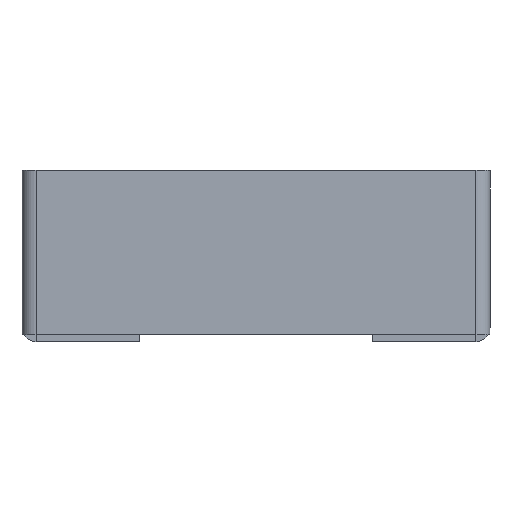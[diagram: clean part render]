
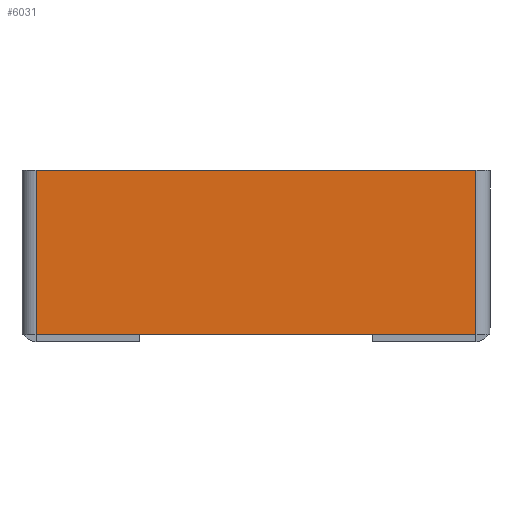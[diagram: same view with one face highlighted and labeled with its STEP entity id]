
A CAD part, front view. The second image highlights one B-rep face of the part: STEP entity #6031.
In plain terms, the highlighted planar face has unit normal (0, -1, 0).
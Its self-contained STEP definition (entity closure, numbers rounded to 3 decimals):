
#231 = CARTESIAN_POINT ( 'NONE',  ( -80., -2.5, 0. ) ) ;
#438 = LINE ( 'NONE', #8355, #7871 ) ;
#568 = ORIENTED_EDGE ( 'NONE', *, *, #774, .T. ) ;
#627 = FACE_OUTER_BOUND ( 'NONE', #7791, .T. ) ;
#632 = DIRECTION ( 'NONE',  ( 0., 0., -1. ) ) ;
#774 = EDGE_CURVE ( 'NONE', #7548, #8526, #438, .T. ) ;
#795 = DIRECTION ( 'NONE',  ( 0., 0., 1. ) ) ;
#1292 = CARTESIAN_POINT ( 'NONE',  ( 77.5, -2.5, -58. ) ) ;
#1640 = CARTESIAN_POINT ( 'NONE',  ( -77.5, -2.5, 0. ) ) ;
#2151 = PLANE ( 'NONE',  #4842 ) ;
#2271 = CARTESIAN_POINT ( 'NONE',  ( -80., -2.5, -58. ) ) ;
#2328 = EDGE_CURVE ( 'NONE', #4325, #8526, #8275, .T. ) ;
#2887 = CARTESIAN_POINT ( 'NONE',  ( 0., -2.5, 0. ) ) ;
#3810 = LINE ( 'NONE', #231, #6190 ) ;
#4325 = VERTEX_POINT ( 'NONE', #4418 ) ;
#4418 = CARTESIAN_POINT ( 'NONE',  ( 77.5, -2.5, -58. ) ) ;
#4842 = AXIS2_PLACEMENT_3D ( 'NONE', #2887, #7817, #795 ) ;
#4994 = CARTESIAN_POINT ( 'NONE',  ( -77.5, -2.5, -58. ) ) ;
#5133 = ORIENTED_EDGE ( 'NONE', *, *, #6372, .T. ) ;
#5542 = ORIENTED_EDGE ( 'NONE', *, *, #7225, .F. ) ;
#5776 = VECTOR ( 'NONE', #7197, 1000. ) ;
#6031 = ADVANCED_FACE ( 'NONE', ( #627 ), #2151, .F. ) ;
#6108 = VECTOR ( 'NONE', #8891, 1000. ) ;
#6190 = VECTOR ( 'NONE', #8139, 1000. ) ;
#6372 = EDGE_CURVE ( 'NONE', #4325, #8635, #7400, .T. ) ;
#6927 = CARTESIAN_POINT ( 'NONE',  ( 77.5, -2.5, 0. ) ) ;
#7197 = DIRECTION ( 'NONE',  ( -1., 0., 0. ) ) ;
#7225 = EDGE_CURVE ( 'NONE', #7548, #8635, #3810, .T. ) ;
#7400 = LINE ( 'NONE', #1292, #6108 ) ;
#7548 = VERTEX_POINT ( 'NONE', #1640 ) ;
#7791 = EDGE_LOOP ( 'NONE', ( #568, #8961, #5133, #5542 ) ) ;
#7817 = DIRECTION ( 'NONE',  ( 0., 1., 0. ) ) ;
#7871 = VECTOR ( 'NONE', #632, 1000. ) ;
#8139 = DIRECTION ( 'NONE',  ( 1., 0., 0. ) ) ;
#8275 = LINE ( 'NONE', #2271, #5776 ) ;
#8355 = CARTESIAN_POINT ( 'NONE',  ( -77.5, -2.5, 0. ) ) ;
#8526 = VERTEX_POINT ( 'NONE', #4994 ) ;
#8635 = VERTEX_POINT ( 'NONE', #6927 ) ;
#8891 = DIRECTION ( 'NONE',  ( 0., 0., 1. ) ) ;
#8961 = ORIENTED_EDGE ( 'NONE', *, *, #2328, .F. ) ;
